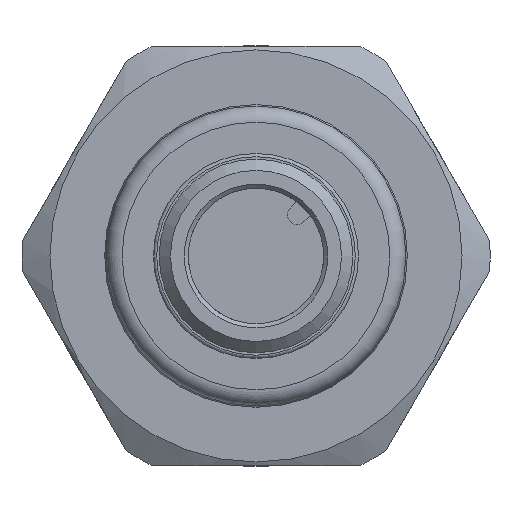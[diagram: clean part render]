
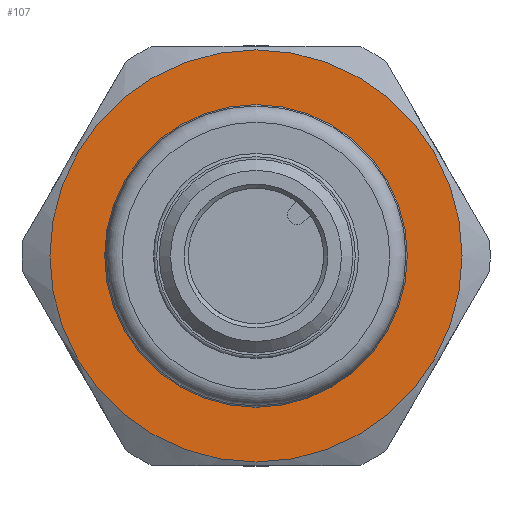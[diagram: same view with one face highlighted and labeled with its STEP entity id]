
A CAD part, left-side view. The second image highlights one B-rep face of the part: STEP entity #107.
In plain terms, the highlighted planar face has unit normal (-1, 0, 0).
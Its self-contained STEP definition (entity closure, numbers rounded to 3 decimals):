
#107 = ADVANCED_FACE( '', ( #243, #244 ), #245, .F. );
#243 = FACE_OUTER_BOUND( '', #441, .T. );
#244 = FACE_BOUND( '', #442, .T. );
#245 = PLANE( '', #443 );
#441 = EDGE_LOOP( '', ( #796 ) );
#442 = EDGE_LOOP( '', ( #797 ) );
#443 = AXIS2_PLACEMENT_3D( '', #798, #799, #800 );
#796 = ORIENTED_EDGE( '', *, *, #1147, .F. );
#797 = ORIENTED_EDGE( '', *, *, #1146, .T. );
#798 = CARTESIAN_POINT( '', ( 55.8, 9.375, 0. ) );
#799 = DIRECTION( '', ( 1., 0., 0. ) );
#800 = DIRECTION( '', ( 0., 0., -1. ) );
#1146 = EDGE_CURVE( '', #1346, #1346, #1347, .T. );
#1147 = EDGE_CURVE( '', #1348, #1348, #1349, .T. );
#1346 = VERTEX_POINT( '', #1876 );
#1347 = CIRCLE( '', #1877, 9.375 );
#1348 = VERTEX_POINT( '', #1878 );
#1349 = CIRCLE( '', #1879, 12.768 );
#1876 = CARTESIAN_POINT( '', ( 55.8, 0., -9.375 ) );
#1877 = AXIS2_PLACEMENT_3D( '', #2153, #2154, #2155 );
#1878 = CARTESIAN_POINT( '', ( 55.8, 0., -12.768 ) );
#1879 = AXIS2_PLACEMENT_3D( '', #2156, #2157, #2158 );
#2153 = CARTESIAN_POINT( '', ( 55.8, 0., 0. ) );
#2154 = DIRECTION( '', ( 1., 0., 0. ) );
#2155 = DIRECTION( '', ( 0., 0., -1. ) );
#2156 = CARTESIAN_POINT( '', ( 55.8, 0., 0. ) );
#2157 = DIRECTION( '', ( 1., 0., 0. ) );
#2158 = DIRECTION( '', ( 0., 0., -1. ) );
